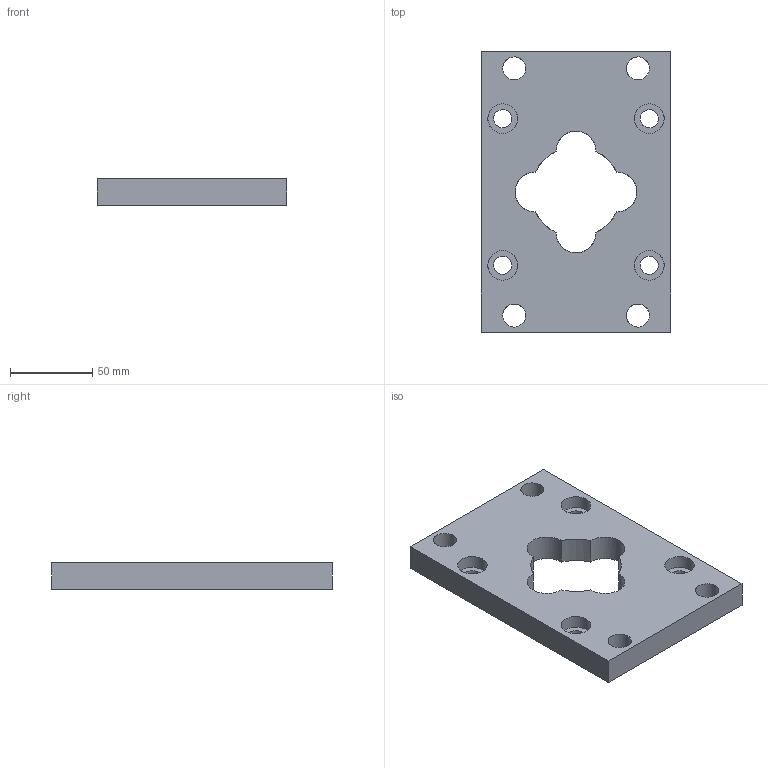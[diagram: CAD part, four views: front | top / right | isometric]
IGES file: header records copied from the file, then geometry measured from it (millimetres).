
Global section: file name: 1325_100_03F; native system: Autodesk Inventor 2014; preprocessor: unknown; author: A. Manieri; organization: Pneumax S.p.A.; date: 20161007.115359; units: millimetre
Bounding box: 115 x 170 x 16 mm (x, y, z)
Volume: 241692.5 mm3; surface area: 49335.1 mm2
Topology: 1 solids, 1 shells, 30 faces, 80 edges, 56 vertices
Faces by surface type: bspline 30
